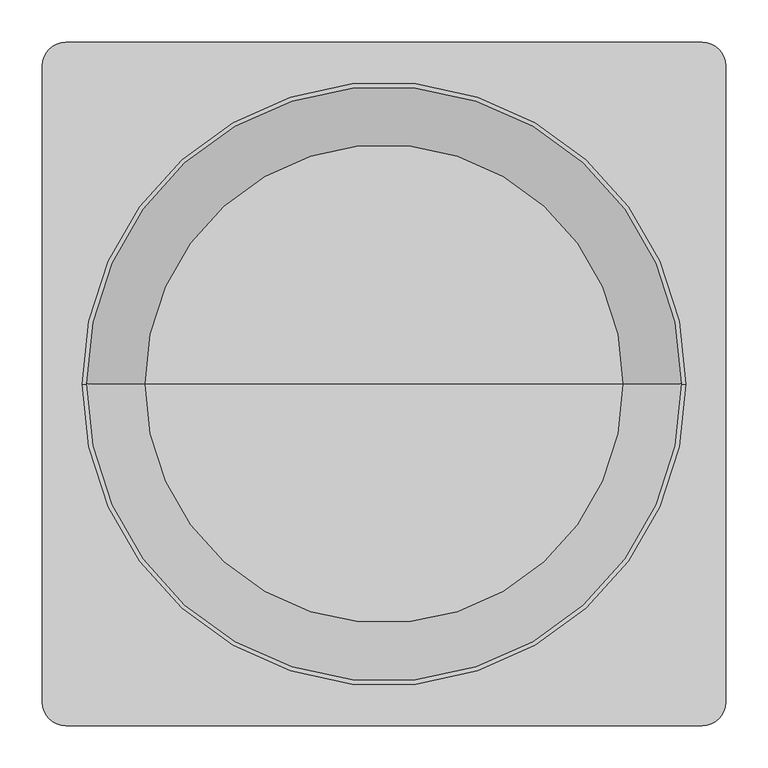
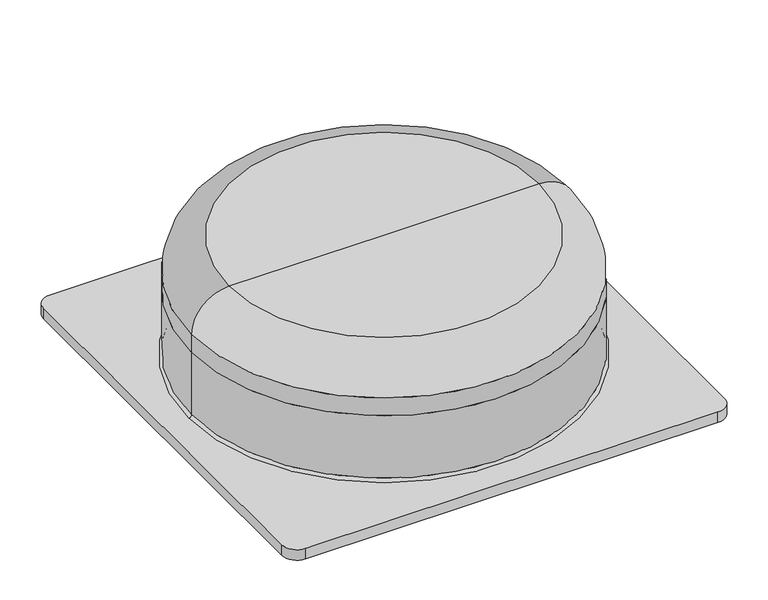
"""IFC4 building model written with IfcOpenShell, lengths in millimetres: unitary equipment geometry, VE-Wentylator-ParaForma-Harmann-WAF-Nawiewny : 630/4/6/18900T."""

import ifcopenshell
import ifcopenshell.guid

model = None  # the IFC model being written
_history = None  # IfcOwnerHistory: only IFC2X3 demands one
_inside = {}  # id of a spatial element -> (the spatial element, [elements in it])
_under = {}  # id of a project, library or spatial element -> (it, [spatial elements below it])
_declared = {}  # id of a project -> (the project, [libraries it declares])
_typed = {}  # id of a type object -> (the type object, [elements of that type])
_made_of = {}  # id of a material, layer set ... -> (it, [elements and type objects made of it])


def new_model(schema):
    """Start an empty IFC model of exactly this schema.

    Asked for "IFC4X3", IfcOpenShell would pick the latest addendum, in which some entities
    have other attributes; the version numbers below select the first issue.
    IFC2X3 requires an IfcOwnerHistory on every rooted entity: one is made here for all.
    """
    global model, _history
    if schema == "IFC4X3":
        model = ifcopenshell.file(schema_version=(4, 3, 0, 0))
    else:
        model = ifcopenshell.file(schema=schema)
    _inside.clear()
    _under.clear()
    _declared.clear()
    _typed.clear()
    _made_of.clear()
    _history = None
    if model.schema == "IFC2X3":
        org = make("IfcOrganization", Name="unknown")
        user = make(
            "IfcPersonAndOrganization",
            ThePerson=make("IfcPerson", FamilyName="unknown"),
            TheOrganization=org,
        )
        app = make(
            "IfcApplication",
            ApplicationDeveloper=org,
            Version="unknown",
            ApplicationFullName="unknown",
            ApplicationIdentifier="unknown",
        )
        _history = make(
            "IfcOwnerHistory",
            OwningUser=user,
            OwningApplication=app,
            ChangeAction="ADDED",
            CreationDate=0,
        )
    return model


def make(cls, **values):
    """One entity of the class cls with the attributes given. An attribute that is None is left unset."""
    return model.create_entity(
        cls, **{name: value for name, value in values.items() if value is not None}
    )


def rooted(cls, **values):
    """An entity with a GlobalId (a new one), such as an element, a storey or a relation."""
    return make(cls, GlobalId=ifcopenshell.guid.new(), OwnerHistory=_history, **values)


def si_unit(unit_type, name, prefix=None):
    """IfcSIUnit, for example si_unit("LENGTHUNIT", "METRE", prefix="MILLI")."""
    return make("IfcSIUnit", UnitType=unit_type, Prefix=prefix, Name=name)


def assignment(units):
    """IfcUnitAssignment: the units of a project."""
    return None if units is None else make("IfcUnitAssignment", Units=units)


def point(xyz):
    """IfcCartesianPoint."""
    return None if xyz is None else make("IfcCartesianPoint", Coordinates=xyz)


def direction(xyz):
    """IfcDirection."""
    return None if xyz is None else make("IfcDirection", DirectionRatios=xyz)


def frame(location, z_axis=None, x_axis=None):
    """IfcAxis2Placement3D, a coordinate frame: its origin and axes. An axis left out is left unset."""
    return make(
        "IfcAxis2Placement3D",
        Location=point(location),
        Axis=direction(z_axis),
        RefDirection=direction(x_axis),
    )


def frame_2d(location, x_axis=None):
    """IfcAxis2Placement2D, a coordinate frame in the plane: its origin and x axis."""
    return make(
        "IfcAxis2Placement2D", Location=point(location), RefDirection=direction(x_axis)
    )


def origin():
    """The frame at (0, 0, 0) with its axes left unset."""
    return frame((0.0, 0.0, 0.0))


def origin_with_axes():
    """The frame at (0, 0, 0) with the z axis (0, 0, 1) and the x axis (1, 0, 0) written out."""
    return frame((0.0, 0.0, 0.0), z_axis=(0.0, 0.0, 1.0), x_axis=(1.0, 0.0, 0.0))


def origin_2d():
    """The frame at (0, 0) in the plane with its x axis left unset."""
    return frame_2d((0.0, 0.0))


def place(relative_to, where):
    """IfcLocalPlacement: puts the frame where relative to a parent placement (None: the world)."""
    return make(
        "IfcLocalPlacement", PlacementRelTo=relative_to, RelativePlacement=where
    )


def context(
    kind, dimensions, precision=None, world=None, true_north=None, identifier=None
):
    """IfcGeometricRepresentationContext, for example the 3D "Model" context."""
    return make(
        "IfcGeometricRepresentationContext",
        ContextIdentifier=identifier,
        ContextType=kind,
        CoordinateSpaceDimension=dimensions,
        Precision=precision,
        WorldCoordinateSystem=world,
        TrueNorth=true_north,
    )


def project(units=None, contexts=None):
    """IfcProject with its units and contexts."""
    return rooted(
        "IfcProject",
        Name="project",
        RepresentationContexts=contexts,
        UnitsInContext=assignment(units),
    )


def spatial(cls, under=None, at=None, **own):
    """A site, building, storey or space (cls), placed at a placement, below another one or the project."""
    s = rooted(cls, ObjectPlacement=at, **own)
    if under is not None:
        _under.setdefault(under.id(), (under, []))[1].append(s)
    return s


def polyline(points):
    """IfcPolyline through the points."""
    return make("IfcPolyline", Points=[point(p) for p in points])


def circle_curve(where, radius):
    """IfcCircle in the frame where."""
    return make("IfcCircle", Position=where, Radius=radius)


def ellipse_curve(where, semi_axis1, semi_axis2):
    """IfcEllipse in the frame where."""
    return make(
        "IfcEllipse", Position=where, SemiAxis1=semi_axis1, SemiAxis2=semi_axis2
    )


def trimmed(basis, trim1, trim2, sense, master):
    """IfcTrimmedCurve: the piece of a basis curve between two trims."""
    return make(
        "IfcTrimmedCurve",
        BasisCurve=basis,
        Trim1=trim1,
        Trim2=trim2,
        SenseAgreement=sense,
        MasterRepresentation=master,
    )


def segment(curve, same_sense, transition):
    """IfcCompositeCurveSegment."""
    return make(
        "IfcCompositeCurveSegment",
        Transition=transition,
        SameSense=same_sense,
        ParentCurve=curve,
    )


def composite_curve(segments, self_intersect=None):
    """IfcCompositeCurve: segments joined end to end."""
    return make("IfcCompositeCurve", Segments=segments, SelfIntersect=self_intersect)


def outline(outer, holes=None, kind="AREA"):
    """IfcArbitraryClosedProfileDef: a profile drawn as a closed curve; with holes, ...WithVoids."""
    if holes is None:
        return make("IfcArbitraryClosedProfileDef", ProfileType=kind, OuterCurve=outer)
    return make(
        "IfcArbitraryProfileDefWithVoids",
        ProfileType=kind,
        OuterCurve=outer,
        InnerCurves=holes,
    )


def extrude(swept, where, along, depth):
    """IfcExtrudedAreaSolid: the profile swept, set in the frame where, extruded along a direction by depth."""
    return make(
        "IfcExtrudedAreaSolid",
        SweptArea=swept,
        Position=where,
        ExtrudedDirection=direction(along),
        Depth=depth,
    )


def shape(context_of_items, identifier, shape_type, items):
    """IfcShapeRepresentation: the items that make up one representation, for example the "Body"."""
    return make(
        "IfcShapeRepresentation",
        ContextOfItems=context_of_items,
        RepresentationIdentifier=identifier,
        RepresentationType=shape_type,
        Items=items,
    )


def source(mapping_origin, context_of_items, identifier, shape_type, items):
    """IfcRepresentationMap: a shape defined once, which mapped items show again and again."""
    return make(
        "IfcRepresentationMap",
        MappingOrigin=mapping_origin,
        MappedRepresentation=shape(context_of_items, identifier, shape_type, items),
    )


def transform(
    local_origin,
    x_axis=None,
    y_axis=None,
    z_axis=None,
    scale=None,
    scale2=None,
    scale3=None,
    uniform=True,
):
    """IfcCartesianTransformationOperator3D, or its non-uniform kind. x_axis, y_axis, z_axis: its Axis1, 2, 3."""
    if uniform:
        return make(
            "IfcCartesianTransformationOperator3D",
            Axis1=direction(x_axis),
            Axis2=direction(y_axis),
            LocalOrigin=point(local_origin),
            Scale=scale,
            Axis3=direction(z_axis),
        )
    return make(
        "IfcCartesianTransformationOperator3DnonUniform",
        Axis1=direction(x_axis),
        Axis2=direction(y_axis),
        LocalOrigin=point(local_origin),
        Scale=scale,
        Axis3=direction(z_axis),
        Scale2=scale2,
        Scale3=scale3,
    )


def mapped(mapping_source, mapping_target):
    """IfcMappedItem: shows the shape of a source again, moved by a transform."""
    return make(
        "IfcMappedItem", MappingSource=mapping_source, MappingTarget=mapping_target
    )


def made_of(thing, what):
    """Note that an element or type object is made of a material, layer set ...; save() writes the relation."""
    if what is not None:
        _made_of.setdefault(what.id(), (what, []))[1].append(thing)
    return thing


def element(
    cls,
    number,
    at=None,
    inside=None,
    cuts=None,
    type_object=None,
    material=None,
    context=None,
    identifier="Body",
    shape_type=None,
    held_by="IfcProductDefinitionShape",
    body=None,
    shapes=None,
    **own,
):
    """One element of the class cls, such as IfcWall. Its Tag is "e" and its number.

    at: its placement. inside: the storey or other place that contains it. cuts: it is an
    opening in that element (IfcRelVoidsElement). A single representation is given by context,
    identifier, shape_type and body (its items); several are given by shapes. held_by: the class
    of the entity that holds the representations. save() writes the other relations.
    """
    e = rooted(cls, Tag="e%d" % number, ObjectPlacement=at, **own)
    if body is not None:
        shapes = [shape(context, identifier, shape_type, body)]
    if shapes is not None:
        e.Representation = make(held_by, Representations=shapes)
    if inside is not None:
        _inside.setdefault(inside.id(), (inside, []))[1].append(e)
    if cuts is not None:
        rooted(
            "IfcRelVoidsElement", RelatingBuildingElement=cuts, RelatedOpeningElement=e
        )
    if type_object is not None:
        _typed.setdefault(type_object.id(), (type_object, []))[1].append(e)
    return made_of(e, material)


def aggregate(whole, parts):
    """IfcRelAggregates: a whole, such as a stair, and the parts it consists of."""
    return rooted("IfcRelAggregates", RelatingObject=whole, RelatedObjects=parts)


def save(model, path):
    """Write the relations noted so far, then the file.

    IfcRelAggregates (storeys below a building ...), IfcRelContainedInSpatialStructure (elements
    in a storey), IfcRelDefinesByType, IfcRelAssociatesMaterial and IfcRelDeclares: one each for
    every whole, place, type object, material and project.
    """
    for whole, parts in _under.values():
        aggregate(whole, parts)
    for where, things in _inside.values():
        rooted(
            "IfcRelContainedInSpatialStructure",
            RelatedElements=things,
            RelatingStructure=where,
        )
    for kind, things in _typed.values():
        rooted("IfcRelDefinesByType", RelatedObjects=things, RelatingType=kind)
    for what, things in _made_of.values():
        rooted("IfcRelAssociatesMaterial", RelatedObjects=things, RelatingMaterial=what)
    for by, libraries in _declared.values():
        rooted("IfcRelDeclares", RelatingContext=by, RelatedDefinitions=libraries)
    model.write(path)


def plane_surface(at):
    """IfcPlane: the flat surface through the origin of the frame at, square to its z axis."""
    return make("IfcPlane", Position=at)


def cylinder_surface(at, radius):
    """IfcCylindricalSurface: all points at the distance radius from the z axis of the frame at."""
    return make("IfcCylindricalSurface", Position=at, Radius=radius)


def revolved_surface(curve, axis_point, axis_direction):
    """IfcSurfaceOfRevolution: the curve turned about the line through axis_point along axis_direction."""
    return make(
        "IfcSurfaceOfRevolution",
        SweptCurve=make("IfcArbitraryOpenProfileDef", ProfileType="CURVE", Curve=curve),
        AxisPosition=make("IfcAxis1Placement", Location=point(axis_point), Axis=direction(axis_direction)),
    )


def advanced_brep(points, edges, surfaces, faces):
    """IfcAdvancedBrep: a solid bounded by faces that lie on surfaces and meet in shared edges.

    An edge is (start, end): straight between two places in points (the first is 0);
    or (start, end, curve); or (start, end, curve, False) where it runs against its curve.
    A face is (place in surfaces, loops), or (place, loops, False) where it looks against
    its surface's normal. A loop lists edges by number (the first is 1), with a minus sign
    where the edge is run from its end to its start. The first loop is the outer one.
    """
    corners = [point(p) for p in points]
    vertices = [make("IfcVertexPoint", VertexGeometry=c) for c in corners]
    made = []
    for start, end, *more in edges:
        made.append(
            make(
                "IfcEdgeCurve",
                EdgeStart=vertices[start],
                EdgeEnd=vertices[end],
                EdgeGeometry=more[0] if more else make("IfcPolyline", Points=[corners[start], corners[end]]),
                SameSense=more[1] if len(more) > 1 else True,
            )
        )
    hull = []
    for where, loops, *sense in faces:
        bounds = []
        for j, loop in enumerate(loops):
            ring = [make("IfcOrientedEdge", EdgeElement=made[abs(k) - 1], Orientation=k > 0) for k in loop]
            bounds.append(
                make(
                    "IfcFaceOuterBound" if j == 0 else "IfcFaceBound",
                    Bound=make("IfcEdgeLoop", EdgeList=ring),
                    Orientation=True,
                )
            )
        hull.append(make("IfcAdvancedFace", Bounds=bounds, FaceSurface=surfaces[where], SameSense=sense[0] if sense else True))
    return make("IfcAdvancedBrep", Outer=make("IfcClosedShell", CfsFaces=hull))


def unitary_equipment_2200db47(model_context):
    return source(origin(), model_context, "Body", "SolidModel", [
        advanced_brep(
        [(350.5, 0.0, 145.3), (0.0, 0.0, 145.3), (-350.5, 0.0, 145.3), (350.5, 0.0, 179.5333333), (-350.5, 0.0, 179.5333333), (282.0333333, 0.0, 248.0), (-282.0333333, 0.0, 248.0), (0.0, 0.0, 248.0)],
        [
            (0, 1),
            (1, 2),
            (2, 0, circle_curve(frame((0.0, 0.0, 145.3), z_axis=(0.0, 0.0, -1.0), x_axis=(-1.0000000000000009, 0.0, 0.0)), 350.5)),
            (0, 2, circle_curve(frame((0.0, 0.0, 145.3), z_axis=(0.0, 0.0, -1.0), x_axis=(-1.0000000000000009, 0.0, 0.0)), 350.5)),
            (3, 0),
            (2, 4),
            (4, 3, circle_curve(frame((0.0, 0.0, 179.5333333), z_axis=(0.0, 0.0, -1.0), x_axis=(-1.0000000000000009, 0.0, 0.0)), 350.5)),
            (3, 4, circle_curve(frame((0.0, 0.0, 179.5333333), z_axis=(0.0, 0.0, -1.0), x_axis=(-1.0000000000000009, 0.0, 0.0)), 350.5)),
            (5, 3, circle_curve(frame((282.0333333, 0.0, 179.5333333), z_axis=(0.0, 1.0000000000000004, 0.0), x_axis=(0.0, 0.0, -1.0000000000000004)), 68.4666667)),
            (4, 6, circle_curve(frame((-282.0333333, 0.0, 179.5333333), z_axis=(0.0, 1.0000000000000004, 0.0), x_axis=(0.0, 0.0, -1.0000000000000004)), 68.4666667)),
            (6, 5, circle_curve(frame((0.0, 0.0, 248.0), z_axis=(0.0, 0.0, -1.0), x_axis=(-1.0000000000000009, 0.0, 0.0)), 282.0333333)),
            (5, 6, circle_curve(frame((0.0, 0.0, 248.0), z_axis=(0.0, 0.0, -1.0), x_axis=(-1.0000000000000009, 0.0, 0.0)), 282.0333333)),
            (7, 5),
            (6, 7),
        ],
        [
            plane_surface(frame((0.0, 0.0, 145.3), z_axis=(0.0, 0.0, -1.0), x_axis=(-1.0, 0.0, 0.0))),
            cylinder_surface(frame((0.0, 0.0, 145.3), z_axis=(0.0, 0.0, 1.0000000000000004), x_axis=(-1.0000000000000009, 0.0, 0.0)), 350.5),
            revolved_surface(trimmed(ellipse_curve(frame((-282.0333333, 0.0, 179.5333333), z_axis=(0.0, 1.0000000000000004, 0.0), x_axis=(0.0, 0.0, -1.0000000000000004)), 68.4666667, 68.4666667), [point((-350.5, 0.0, 179.5333333))], [point((-282.0333333, 0.0, 248.0))], True, "CARTESIAN"), (0.0, 0.0, 145.3), (0.0, 0.0, 1.0000000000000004)),
            plane_surface(frame((0.0, 0.0, 248.0), z_axis=(0.0, 0.0, 1.0), x_axis=(-1.0, 0.0, 0.0))),
        ],
        [
            (0, [[1, 2, 3]]),
            (0, [[-2, -1, 4]]),
            (1, [[5, -3, 6, 7]]),
            (1, [[-6, -4, -5, 8]]),
            (2, [[9, -7, 10, 11]]),
            (2, [[-10, -8, -9, 12]]),
            (3, [[13, -11, 14]]),
            (3, [[-14, -12, -13]]),
        ],
    ),
        advanced_brep(
        [(0.0, 0.0, 145.3), (350.5, 0.0, 145.3), (-350.5, 0.0, 145.3), (355.5, 0.0, 20.0), (0.0, 0.0, 20.0), (-355.5, 0.0, 20.0), (350.5, 0.0, 25.0), (-350.5, 0.0, 25.0)],
        [
            (0, 1),
            (1, 2, circle_curve(frame((0.0, 0.0, 145.3), z_axis=(0.0, 0.0, 1.0), x_axis=(-1.0000000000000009, 0.0, 0.0)), 350.5)),
            (2, 0),
            (2, 1, circle_curve(frame((0.0, 0.0, 145.3), z_axis=(0.0, 0.0, 1.0), x_axis=(-1.0000000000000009, 0.0, 0.0)), 350.5)),
            (3, 4),
            (4, 5),
            (5, 3, circle_curve(frame((0.0, 0.0, 20.0), z_axis=(0.0, 0.0, -1.0), x_axis=(-1.0000000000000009, 0.0, 0.0)), 355.5)),
            (3, 5, circle_curve(frame((0.0, 0.0, 20.0), z_axis=(0.0, 0.0, -1.0), x_axis=(-1.0000000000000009, 0.0, 0.0)), 355.5)),
            (6, 3, circle_curve(frame((355.5, 0.0, 25.0), z_axis=(0.0, -1.0000000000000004, 0.0), x_axis=(0.0, 0.0, -1.0000000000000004)), 5.0)),
            (5, 7, circle_curve(frame((-355.5, 0.0, 25.0), z_axis=(0.0, -1.0000000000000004, 0.0), x_axis=(0.0, 0.0, -1.0000000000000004)), 5.0)),
            (7, 6, circle_curve(frame((0.0, 0.0, 25.0), z_axis=(0.0, 0.0, -1.0), x_axis=(-1.0000000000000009, 0.0, 0.0)), 350.5)),
            (6, 7, circle_curve(frame((0.0, 0.0, 25.0), z_axis=(0.0, 0.0, -1.0), x_axis=(-1.0000000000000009, 0.0, 0.0)), 350.5)),
            (1, 6),
            (7, 2),
        ],
        [
            plane_surface(frame((0.0, 0.0, 145.3), z_axis=(0.0, 0.0, 1.0), x_axis=(-1.0, 0.0, 0.0))),
            plane_surface(frame((0.0, 0.0, 20.0), z_axis=(0.0, 0.0, -1.0), x_axis=(-1.0, 0.0, 0.0))),
            revolved_surface(trimmed(ellipse_curve(frame((-355.5, 0.0, 25.0), z_axis=(0.0, -1.0000000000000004, 0.0), x_axis=(0.0, 0.0, -1.0000000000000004)), 5.0, 5.0), [point((-355.5, 0.0, 20.0))], [point((-350.5, 0.0, 25.0))], True, "CARTESIAN"), (0.0, 0.0, 145.3), (0.0, 0.0, 1.0000000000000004)),
            cylinder_surface(frame((0.0, 0.0, 145.3), z_axis=(0.0, 0.0, 1.0000000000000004), x_axis=(-1.0000000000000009, 0.0, 0.0)), 350.5),
        ],
        [
            (0, [[1, 2, 3]]),
            (0, [[-3, 4, -1]]),
            (1, [[5, 6, 7]]),
            (1, [[-6, -5, 8]]),
            (2, [[9, -7, 10, 11]]),
            (2, [[-10, -8, -9, 12]]),
            (3, [[13, -11, 14, -2]]),
            (3, [[-14, -12, -13, -4]]),
        ],
    ),
        extrude(outline(composite_curve([segment(trimmed(circle_curve(origin_2d(), 50.0), [point((50.0, 0.0))], [point((-50.0, 0.0))], False, "CARTESIAN"), True, "CONTINUOUS"), segment(trimmed(circle_curve(origin_2d(), 50.0), [point((-50.0, 0.0))], [point((50.0, 0.0))], False, "CARTESIAN"), True, "CONTINUOUS")], self_intersect=False)), frame((0.0, 0.0, -2.0), z_axis=(0.0, 0.0, 1.0), x_axis=(1.0, 0.0, 0.0)), (0.0, 0.0, 1.0), 2.0),
        extrude(outline(composite_curve([segment(trimmed(circle_curve(frame_2d((375.0, 375.0)), 27.5), [point((375.0, 402.5))], [point((402.5, 375.0))], False, "CARTESIAN"), True, "CONTINUOUS"), segment(polyline([(402.5, 375.0), (402.5, -375.0)]), True, "CONTINUOUS"), segment(trimmed(circle_curve(frame_2d((375.0, -375.0)), 27.5), [point((402.5, -375.0))], [point((375.0, -402.5))], False, "CARTESIAN"), True, "CONTINUOUS"), segment(polyline([(375.0, -402.5), (-375.0, -402.5)]), True, "CONTINUOUS"), segment(trimmed(circle_curve(frame_2d((-375.0, -375.0)), 27.5), [point((-375.0, -402.5))], [point((-402.5, -375.0))], False, "CARTESIAN"), True, "CONTINUOUS"), segment(polyline([(-402.5, -375.0), (-402.5, 375.0)]), True, "CONTINUOUS"), segment(trimmed(circle_curve(frame_2d((-375.0, 375.0)), 27.5), [point((-402.5, 375.0))], [point((-375.0, 402.5))], False, "CARTESIAN"), True, "CONTINUOUS"), segment(polyline([(-375.0, 402.5), (375.0, 402.5)]), True, "CONTINUOUS")], self_intersect=False)), origin_with_axes(), (0.0, 0.0, 1.0), 20.0),
    ])


if __name__ == "__main__":
    model = new_model("IFC4")
    model_context = context("Model", 3, world=origin())
    ifc_project = project(units=[si_unit("LENGTHUNIT", "METRE", prefix="MILLI")], contexts=[model_context])
    site = spatial("IfcSite", under=ifc_project)
    building = spatial("IfcBuilding", under=site)
    placement = place(None, origin())
    unitary_equipment_shape = unitary_equipment_2200db47(model_context)
    element("IfcUnitaryEquipment", 1, ObjectType="VE-Wentylator-ParaForma-Harmann-WAF-Nawiewny : 630/4/6/18900T", at=placement, inside=building, context=model_context, shape_type="MappedRepresentation", body=[
        mapped(unitary_equipment_shape, transform((0.0, 0.0, 0.0), x_axis=(1.0, 0.0, 0.0), y_axis=(0.0, 1.0, 0.0), z_axis=(0.0, 0.0, 1.0))),
    ])
    save(model, "model.ifc")
